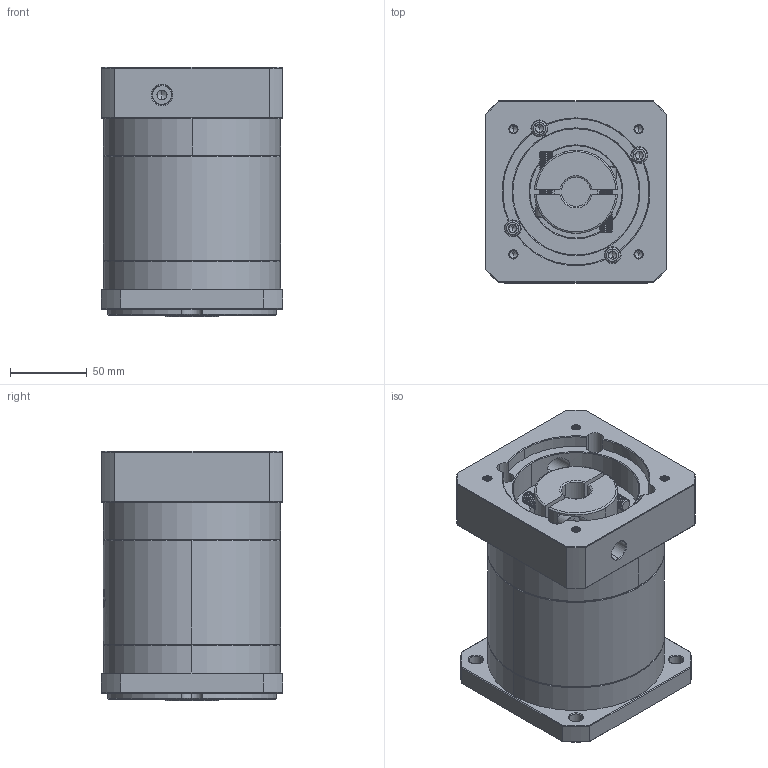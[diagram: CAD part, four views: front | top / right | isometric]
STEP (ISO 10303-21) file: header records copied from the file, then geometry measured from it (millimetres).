
FILE_DESCRIPTION (( 'STEP AP214' ), '1' );
FILE_NAME ('ZF120A-K25-L2-P2-19-95-115-M6.step', '2023-08-27T04:50:49', ( '' ), ( '' ), 'SwSTEP 2.0', 'SolidWorks 2016', '' );
FILE_SCHEMA (( 'AUTOMOTIVE_DESIGN' ));
Length unit declared in the file: millimetre
Products named in the file (1): ZF120A-K25-L2-P2-19-95-115-M6
Bounding box: 118 x 118 x 162 mm (x, y, z)
Volume: 1613769.6 mm3; surface area: 166451.7 mm2
Topology: 6 solids, 6 shells, 2179 faces, 5811 edges, 3733 vertices
Faces by surface type: plane 1027, bspline 430, cylinder 388, cone 334
Entity records: 117449 total; most frequent: CARTESIAN_POINT 44390, ORIENTED_EDGE 11566, DIRECTION 8419, EDGE_CURVE 5783, VERTEX_POINT 3733, VECTOR 3047, LINE 3047, AXIS2_PLACEMENT_3D 2686
